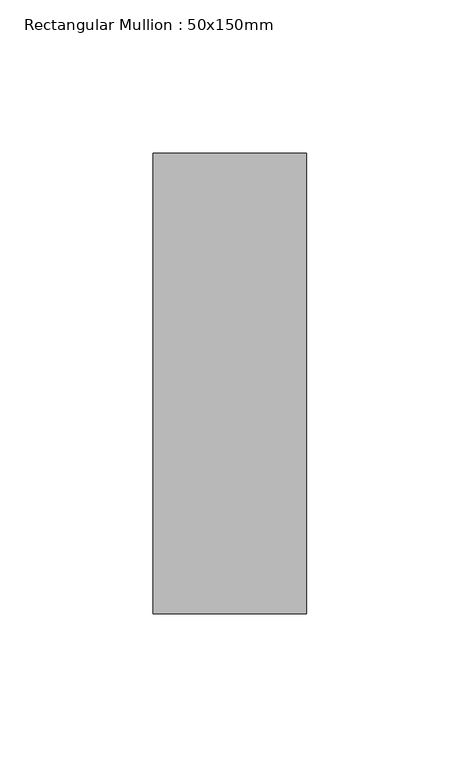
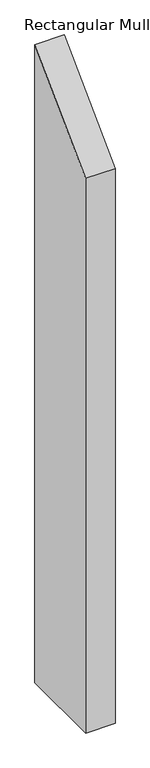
"""IFC4 building model written with IfcOpenShell, lengths in millimetres: member geometry, Rectangular Mullion : 50x150mm."""

from ifc_helpers import new_model, si_unit, frame, origin, place, context, project, spatial, polyline, outline, extrude, source, transform, mapped, element, save


def rectangular_mullion_50x150mm_e53cf1c9(model_context):
    return source(origin(), model_context, "Body", "SweptSolid", [
        extrude(outline(polyline([(-75.0, -75.0), (75.0, 75.0), (75.0, -1074.9999999), (-75.0, -1074.9999999), (-75.0, -75.0)])), frame((-50.0, 0.0, 0.0), z_axis=(1.0, 0.0, 0.0), x_axis=(0.0, 1.0, 0.0)), (0.0, 0.0, 1.0), 50.0),
    ])


if __name__ == "__main__":
    model = new_model("IFC4")
    model_context = context("Model", 3, world=origin())
    ifc_project = project(units=[si_unit("LENGTHUNIT", "METRE", prefix="MILLI")], contexts=[model_context])
    site = spatial("IfcSite", under=ifc_project)
    building = spatial("IfcBuilding", under=site)
    placement = place(None, origin())
    rectangular_mullion_50x150mm_shape = rectangular_mullion_50x150mm_e53cf1c9(model_context)
    element("IfcMember", 1, ObjectType="Rectangular Mullion : 50x150mm", at=placement, inside=building, context=model_context, shape_type="MappedRepresentation", body=[
        mapped(rectangular_mullion_50x150mm_shape, transform((0.0, 0.0, 0.0), x_axis=(1.0, 0.0, 0.0), y_axis=(0.0, 1.0, 0.0), z_axis=(0.0, 0.0, 1.0))),
    ])
    save(model, "model.ifc")
